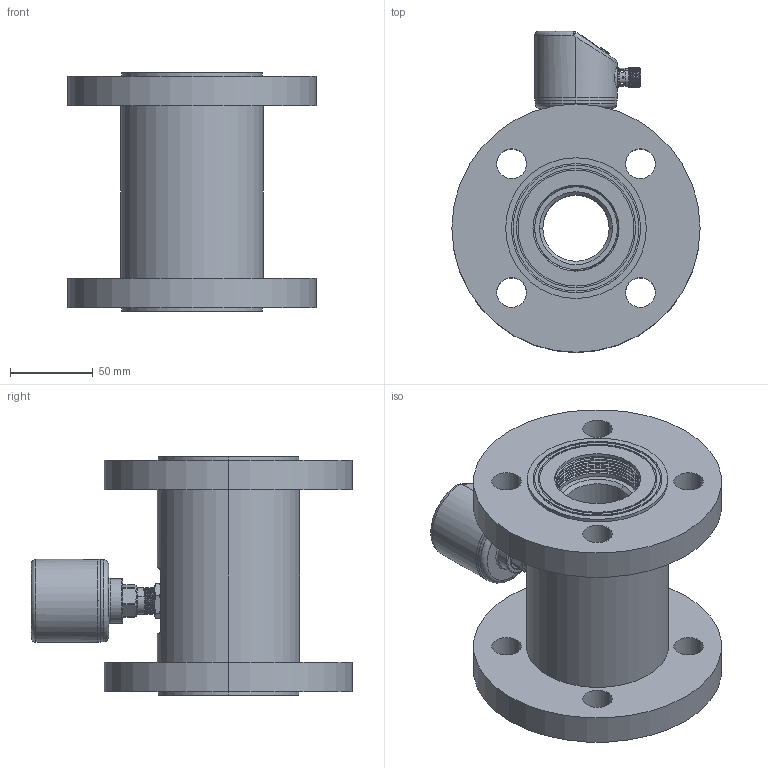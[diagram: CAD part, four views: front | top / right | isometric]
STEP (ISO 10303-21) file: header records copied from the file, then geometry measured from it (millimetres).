
FILE_DESCRIPTION (( 'STEP AP214' ), '1' );
FILE_NAME ('BFW2C40-316L.STEP', '2025-12-18T00:40:49', ( '' ), ( '' ), 'SwSTEP 2.0', 'SolidWorks 2023', '' );
FILE_SCHEMA (( 'AUTOMOTIVE_DESIGN' ));
Length unit declared in the file: millimetre
Products named in the file (10): 按键帽; DN40法兰; 压力上盖; M16螺母; BFW2C40-316L; 探头外螺纹G1-4; 防水接头壳体1; 压力显示罩; 涡轮探头5; PVC密封垫
Assembly tree (11 placements, depth 2):
  BFW2C40-316L
    压力上盖
    压力显示罩
    防水接头壳体1
    按键帽  x3
    PVC密封垫
    探头外螺纹G1-4
    涡轮探头5
    DN40法兰
    M16螺母
Bounding box: 150 x 194 x 144 mm (x, y, z)
Volume: 1042098.9 mm3; surface area: 162853.1 mm2
Topology: 11 solids, 11 shells, 696 faces, 1692 edges, 1073 vertices
Faces by surface type: cylinder 361, plane 165, cone 120, bspline 24, torus 22, sphere 4
Entity records: 29874 total; most frequent: CARTESIAN_POINT 14616, ORIENTED_EDGE 3212, DIRECTION 3076, EDGE_CURVE 1606, AXIS2_PLACEMENT_3D 1209, VERTEX_POINT 1027, EDGE_LOOP 767, VECTOR 658
